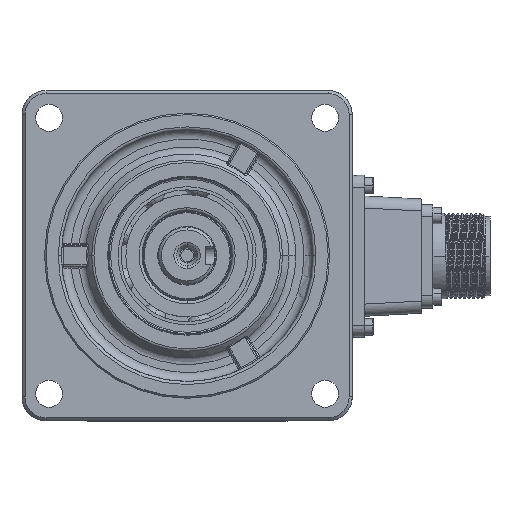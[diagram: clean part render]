
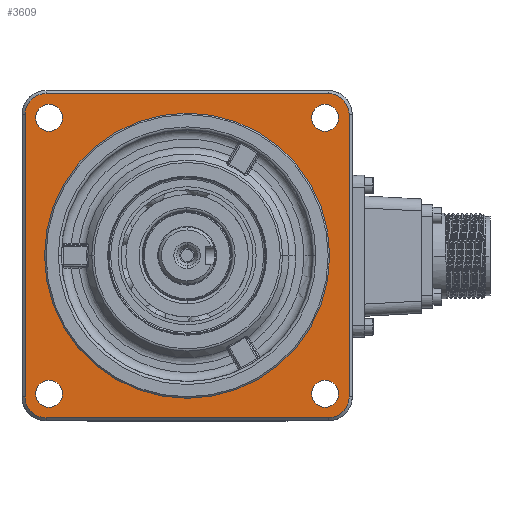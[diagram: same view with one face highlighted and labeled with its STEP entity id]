
A CAD part, top view. The second image highlights one B-rep face of the part: STEP entity #3609.
In plain terms, the highlighted planar face has unit normal (0, 0, 1).
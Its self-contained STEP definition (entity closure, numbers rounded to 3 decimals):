
#247 = VERTEX_POINT('',#248);
#248 = CARTESIAN_POINT('',(-72.748,-6.989,
    41.118));
#254 = EDGE_CURVE('',#247,#255,#257,.T.);
#255 = VERTEX_POINT('',#256);
#256 = CARTESIAN_POINT('',(-167.748,-6.989,
    41.118));
#257 = CIRCLE('',#258,47.5);
#258 = AXIS2_PLACEMENT_3D('',#259,#260,#261);
#259 = CARTESIAN_POINT('',(-120.248,-6.989,
    41.118));
#260 = DIRECTION('',(0.,0.,1.));
#261 = DIRECTION('',(1.,0.,-0.));
#3609 = ADVANCED_FACE('',(#3610,#3680,#3700,#3720,#3740,#3760),#3770,.T.
  );
#3610 = FACE_BOUND('',#3611,.T.);
#3611 = EDGE_LOOP('',(#3612,#3623,#3631,#3640,#3648,#3657,#3665,#3674));
#3612 = ORIENTED_EDGE('',*,*,#3613,.T.);
#3613 = EDGE_CURVE('',#3614,#3616,#3618,.T.);
#3614 = VERTEX_POINT('',#3615);
#3615 = CARTESIAN_POINT('',(-174.248,-53.989,
    41.118));
#3616 = VERTEX_POINT('',#3617);
#3617 = CARTESIAN_POINT('',(-167.248,-60.989,
    41.118));
#3618 = CIRCLE('',#3619,7.);
#3619 = AXIS2_PLACEMENT_3D('',#3620,#3621,#3622);
#3620 = CARTESIAN_POINT('',(-167.248,-53.989,
    41.118));
#3621 = DIRECTION('',(0.,-0.,1.));
#3622 = DIRECTION('',(1.,0.,0.));
#3623 = ORIENTED_EDGE('',*,*,#3624,.T.);
#3624 = EDGE_CURVE('',#3616,#3625,#3627,.T.);
#3625 = VERTEX_POINT('',#3626);
#3626 = CARTESIAN_POINT('',(-73.248,-60.989,
    41.118));
#3627 = LINE('',#3628,#3629);
#3628 = CARTESIAN_POINT('',(-73.248,-60.989,
    41.118));
#3629 = VECTOR('',#3630,1.);
#3630 = DIRECTION('',(1.,0.,0.));
#3631 = ORIENTED_EDGE('',*,*,#3632,.T.);
#3632 = EDGE_CURVE('',#3625,#3633,#3635,.T.);
#3633 = VERTEX_POINT('',#3634);
#3634 = CARTESIAN_POINT('',(-66.248,-53.989,
    41.118));
#3635 = CIRCLE('',#3636,7.);
#3636 = AXIS2_PLACEMENT_3D('',#3637,#3638,#3639);
#3637 = CARTESIAN_POINT('',(-73.248,-53.989,
    41.118));
#3638 = DIRECTION('',(0.,-0.,1.));
#3639 = DIRECTION('',(1.,0.,0.));
#3640 = ORIENTED_EDGE('',*,*,#3641,.T.);
#3641 = EDGE_CURVE('',#3633,#3642,#3644,.T.);
#3642 = VERTEX_POINT('',#3643);
#3643 = CARTESIAN_POINT('',(-66.248,40.011,
    41.118));
#3644 = LINE('',#3645,#3646);
#3645 = CARTESIAN_POINT('',(-66.248,40.011,
    41.118));
#3646 = VECTOR('',#3647,1.);
#3647 = DIRECTION('',(0.,1.,0.));
#3648 = ORIENTED_EDGE('',*,*,#3649,.T.);
#3649 = EDGE_CURVE('',#3642,#3650,#3652,.T.);
#3650 = VERTEX_POINT('',#3651);
#3651 = CARTESIAN_POINT('',(-73.248,47.011,
    41.118));
#3652 = CIRCLE('',#3653,7.);
#3653 = AXIS2_PLACEMENT_3D('',#3654,#3655,#3656);
#3654 = CARTESIAN_POINT('',(-73.248,40.011,
    41.118));
#3655 = DIRECTION('',(0.,-0.,1.));
#3656 = DIRECTION('',(1.,0.,0.));
#3657 = ORIENTED_EDGE('',*,*,#3658,.T.);
#3658 = EDGE_CURVE('',#3650,#3659,#3661,.T.);
#3659 = VERTEX_POINT('',#3660);
#3660 = CARTESIAN_POINT('',(-167.248,47.011,
    41.118));
#3661 = LINE('',#3662,#3663);
#3662 = CARTESIAN_POINT('',(-167.248,47.011,
    41.118));
#3663 = VECTOR('',#3664,1.);
#3664 = DIRECTION('',(-1.,0.,0.));
#3665 = ORIENTED_EDGE('',*,*,#3666,.T.);
#3666 = EDGE_CURVE('',#3659,#3667,#3669,.T.);
#3667 = VERTEX_POINT('',#3668);
#3668 = CARTESIAN_POINT('',(-174.248,40.011,
    41.118));
#3669 = CIRCLE('',#3670,7.);
#3670 = AXIS2_PLACEMENT_3D('',#3671,#3672,#3673);
#3671 = CARTESIAN_POINT('',(-167.248,40.011,
    41.118));
#3672 = DIRECTION('',(0.,-0.,1.));
#3673 = DIRECTION('',(1.,0.,0.));
#3674 = ORIENTED_EDGE('',*,*,#3675,.T.);
#3675 = EDGE_CURVE('',#3667,#3614,#3676,.T.);
#3676 = LINE('',#3677,#3678);
#3677 = CARTESIAN_POINT('',(-174.248,-53.989,
    41.118));
#3678 = VECTOR('',#3679,1.);
#3679 = DIRECTION('',(0.,-1.,0.));
#3680 = FACE_BOUND('',#3681,.T.);
#3681 = EDGE_LOOP('',(#3682,#3693));
#3682 = ORIENTED_EDGE('',*,*,#3683,.F.);
#3683 = EDGE_CURVE('',#3684,#3686,#3688,.T.);
#3684 = VERTEX_POINT('',#3685);
#3685 = CARTESIAN_POINT('',(-69.786,38.973,
    41.118));
#3686 = VERTEX_POINT('',#3687);
#3687 = CARTESIAN_POINT('',(-78.786,38.973,
    41.118));
#3688 = CIRCLE('',#3689,4.5);
#3689 = AXIS2_PLACEMENT_3D('',#3690,#3691,#3692);
#3690 = CARTESIAN_POINT('',(-74.286,38.973,
    41.118));
#3691 = DIRECTION('',(0.,-0.,1.));
#3692 = DIRECTION('',(1.,0.,0.));
#3693 = ORIENTED_EDGE('',*,*,#3694,.F.);
#3694 = EDGE_CURVE('',#3686,#3684,#3695,.T.);
#3695 = CIRCLE('',#3696,4.5);
#3696 = AXIS2_PLACEMENT_3D('',#3697,#3698,#3699);
#3697 = CARTESIAN_POINT('',(-74.286,38.973,
    41.118));
#3698 = DIRECTION('',(0.,-0.,1.));
#3699 = DIRECTION('',(1.,0.,0.));
#3700 = FACE_BOUND('',#3701,.T.);
#3701 = EDGE_LOOP('',(#3702,#3713));
#3702 = ORIENTED_EDGE('',*,*,#3703,.F.);
#3703 = EDGE_CURVE('',#3704,#3706,#3708,.T.);
#3704 = VERTEX_POINT('',#3705);
#3705 = CARTESIAN_POINT('',(-69.786,-52.951,
    41.118));
#3706 = VERTEX_POINT('',#3707);
#3707 = CARTESIAN_POINT('',(-78.786,-52.951,
    41.118));
#3708 = CIRCLE('',#3709,4.5);
#3709 = AXIS2_PLACEMENT_3D('',#3710,#3711,#3712);
#3710 = CARTESIAN_POINT('',(-74.286,-52.951,
    41.118));
#3711 = DIRECTION('',(0.,-0.,1.));
#3712 = DIRECTION('',(1.,0.,0.));
#3713 = ORIENTED_EDGE('',*,*,#3714,.F.);
#3714 = EDGE_CURVE('',#3706,#3704,#3715,.T.);
#3715 = CIRCLE('',#3716,4.5);
#3716 = AXIS2_PLACEMENT_3D('',#3717,#3718,#3719);
#3717 = CARTESIAN_POINT('',(-74.286,-52.951,
    41.118));
#3718 = DIRECTION('',(0.,-0.,1.));
#3719 = DIRECTION('',(1.,0.,0.));
#3720 = FACE_BOUND('',#3721,.T.);
#3721 = EDGE_LOOP('',(#3722,#3733));
#3722 = ORIENTED_EDGE('',*,*,#3723,.F.);
#3723 = EDGE_CURVE('',#3724,#3726,#3728,.T.);
#3724 = VERTEX_POINT('',#3725);
#3725 = CARTESIAN_POINT('',(-161.71,-52.951,
    41.118));
#3726 = VERTEX_POINT('',#3727);
#3727 = CARTESIAN_POINT('',(-170.71,-52.951,
    41.118));
#3728 = CIRCLE('',#3729,4.5);
#3729 = AXIS2_PLACEMENT_3D('',#3730,#3731,#3732);
#3730 = CARTESIAN_POINT('',(-166.21,-52.951,
    41.118));
#3731 = DIRECTION('',(0.,-0.,1.));
#3732 = DIRECTION('',(1.,0.,0.));
#3733 = ORIENTED_EDGE('',*,*,#3734,.F.);
#3734 = EDGE_CURVE('',#3726,#3724,#3735,.T.);
#3735 = CIRCLE('',#3736,4.5);
#3736 = AXIS2_PLACEMENT_3D('',#3737,#3738,#3739);
#3737 = CARTESIAN_POINT('',(-166.21,-52.951,
    41.118));
#3738 = DIRECTION('',(0.,-0.,1.));
#3739 = DIRECTION('',(1.,0.,0.));
#3740 = FACE_BOUND('',#3741,.T.);
#3741 = EDGE_LOOP('',(#3742,#3753));
#3742 = ORIENTED_EDGE('',*,*,#3743,.F.);
#3743 = EDGE_CURVE('',#3744,#3746,#3748,.T.);
#3744 = VERTEX_POINT('',#3745);
#3745 = CARTESIAN_POINT('',(-161.71,38.973,
    41.118));
#3746 = VERTEX_POINT('',#3747);
#3747 = CARTESIAN_POINT('',(-170.71,38.973,
    41.118));
#3748 = CIRCLE('',#3749,4.5);
#3749 = AXIS2_PLACEMENT_3D('',#3750,#3751,#3752);
#3750 = CARTESIAN_POINT('',(-166.21,38.973,
    41.118));
#3751 = DIRECTION('',(0.,-0.,1.));
#3752 = DIRECTION('',(1.,0.,0.));
#3753 = ORIENTED_EDGE('',*,*,#3754,.F.);
#3754 = EDGE_CURVE('',#3746,#3744,#3755,.T.);
#3755 = CIRCLE('',#3756,4.5);
#3756 = AXIS2_PLACEMENT_3D('',#3757,#3758,#3759);
#3757 = CARTESIAN_POINT('',(-166.21,38.973,
    41.118));
#3758 = DIRECTION('',(0.,-0.,1.));
#3759 = DIRECTION('',(1.,0.,0.));
#3760 = FACE_BOUND('',#3761,.T.);
#3761 = EDGE_LOOP('',(#3762,#3769));
#3762 = ORIENTED_EDGE('',*,*,#3763,.F.);
#3763 = EDGE_CURVE('',#255,#247,#3764,.T.);
#3764 = CIRCLE('',#3765,47.5);
#3765 = AXIS2_PLACEMENT_3D('',#3766,#3767,#3768);
#3766 = CARTESIAN_POINT('',(-120.248,-6.989,
    41.118));
#3767 = DIRECTION('',(0.,0.,1.));
#3768 = DIRECTION('',(1.,0.,-0.));
#3769 = ORIENTED_EDGE('',*,*,#254,.F.);
#3770 = PLANE('',#3771);
#3771 = AXIS2_PLACEMENT_3D('',#3772,#3773,#3774);
#3772 = CARTESIAN_POINT('',(-120.248,-6.989,
    41.118));
#3773 = DIRECTION('',(0.,-0.,1.));
#3774 = DIRECTION('',(1.,0.,0.));
